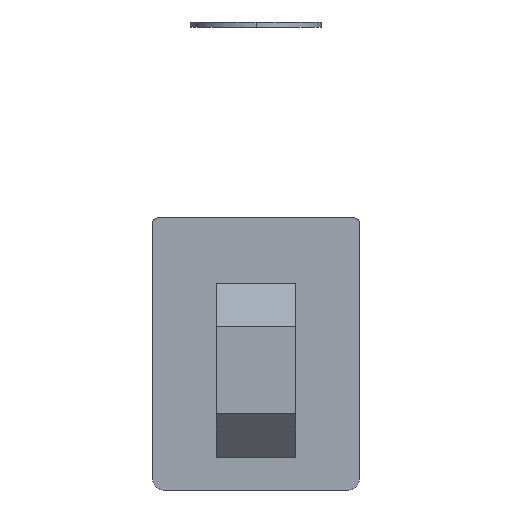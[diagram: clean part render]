
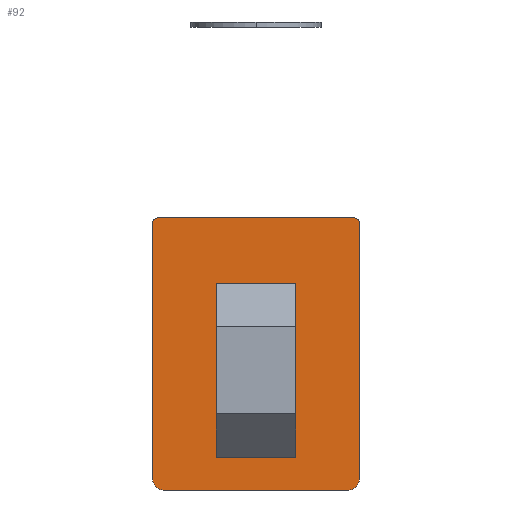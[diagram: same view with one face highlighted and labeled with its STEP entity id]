
A CAD part, front view. The second image highlights one B-rep face of the part: STEP entity #92.
In plain terms, the highlighted planar face has unit normal (0, -1, 0).
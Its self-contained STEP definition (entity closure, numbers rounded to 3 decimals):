
#92=ADVANCED_FACE('NONE',(#249,#250),#251,.T.);
#249=FACE_OUTER_BOUND('',#558,.T.);
#250=FACE_BOUND('',#559,.T.);
#251=PLANE('',#560);
#558=EDGE_LOOP('',(#935,#936,#937,#938,#939,#940,#941,#942));
#559=EDGE_LOOP('',(#943,#944,#945,#946,#947,#948));
#560=AXIS2_PLACEMENT_3D('',#949,#950,#951);
#935=ORIENTED_EDGE('',*,*,#2074,.T.);
#936=ORIENTED_EDGE('',*,*,#2075,.T.);
#937=ORIENTED_EDGE('',*,*,#2076,.F.);
#938=ORIENTED_EDGE('',*,*,#2077,.T.);
#939=ORIENTED_EDGE('',*,*,#2078,.F.);
#940=ORIENTED_EDGE('',*,*,#2079,.T.);
#941=ORIENTED_EDGE('',*,*,#2080,.T.);
#942=ORIENTED_EDGE('',*,*,#2081,.T.);
#943=ORIENTED_EDGE('',*,*,#2065,.F.);
#944=ORIENTED_EDGE('',*,*,#2056,.F.);
#945=ORIENTED_EDGE('',*,*,#2082,.F.);
#946=ORIENTED_EDGE('',*,*,#2060,.F.);
#947=ORIENTED_EDGE('',*,*,#2073,.F.);
#948=ORIENTED_EDGE('',*,*,#2083,.F.);
#949=CARTESIAN_POINT('',(0.0,0.0,-25.0));
#950=DIRECTION('',(0.0,-1.0,0.0));
#951=DIRECTION('',(0.0,0.0,-1.0));
#2056=EDGE_CURVE('NONE',#2478,#2480,#2481,.T.);
#2060=EDGE_CURVE('NONE',#2485,#2487,#2488,.T.);
#2065=EDGE_CURVE('NONE',#2480,#2495,#2496,.T.);
#2073=EDGE_CURVE('NONE',#2506,#2485,#2508,.T.);
#2074=EDGE_CURVE('NONE',#2509,#2510,#2511,.T.);
#2075=EDGE_CURVE('NONE',#2510,#2512,#2513,.T.);
#2076=EDGE_CURVE('NONE',#2514,#2512,#2515,.T.);
#2077=EDGE_CURVE('NONE',#2514,#2516,#2517,.T.);
#2078=EDGE_CURVE('NONE',#2518,#2516,#2519,.T.);
#2079=EDGE_CURVE('NONE',#2518,#2520,#2521,.T.);
#2080=EDGE_CURVE('NONE',#2520,#2522,#2523,.T.);
#2081=EDGE_CURVE('NONE',#2522,#2509,#2524,.T.);
#2082=EDGE_CURVE('NONE',#2487,#2478,#2525,.T.);
#2083=EDGE_CURVE('NONE',#2495,#2506,#2526,.T.);
#2478=VERTEX_POINT('NONE',#3127);
#2480=VERTEX_POINT('NONE',#3130);
#2481=LINE('',#3131,#3132);
#2485=VERTEX_POINT('NONE',#3147);
#2487=VERTEX_POINT('NONE',#3150);
#2488=CIRCLE('',#3151,4.0);
#2495=VERTEX_POINT('NONE',#3184);
#2496=CIRCLE('',#3185,4.0);
#2506=VERTEX_POINT('NONE',#3213);
#2508=LINE('',#3216,#3217);
#2509=VERTEX_POINT('NONE',#3218);
#2510=VERTEX_POINT('NONE',#3219);
#2511=LINE('',#3220,#3221);
#2512=VERTEX_POINT('NONE',#3222);
#2513=CIRCLE('',#3223,0.5);
#2514=VERTEX_POINT('NONE',#3224);
#2515=LINE('',#3225,#3226);
#2516=VERTEX_POINT('NONE',#3227);
#2517=CIRCLE('',#3228,0.5);
#2518=VERTEX_POINT('NONE',#3229);
#2519=LINE('',#3230,#3231);
#2520=VERTEX_POINT('NONE',#3232);
#2521=CIRCLE('',#3233,1.0);
#2522=VERTEX_POINT('NONE',#3234);
#2523=LINE('',#3235,#3236);
#2524=CIRCLE('',#3237,1.0);
#2525=LINE('',#3238,#3239);
#2526=LINE('',#3240,#3241);
#3127=CARTESIAN_POINT('',(12.85,0.0,-10.1));
#3130=CARTESIAN_POINT('',(10.15,0.0,-10.1));
#3131=CARTESIAN_POINT('',(12.85,0.0,-10.1));
#3132=VECTOR('',#4000,1000.0);
#3147=CARTESIAN_POINT('',(8.85,0.0,-17.9));
#3150=CARTESIAN_POINT('',(12.85,0.0,-13.9));
#3151=AXIS2_PLACEMENT_3D('',#4003,#4004,#4005);
#3184=CARTESIAN_POINT('',(6.15,0.0,-14.1));
#3185=AXIS2_PLACEMENT_3D('',#4007,#4008,#4009);
#3213=CARTESIAN_POINT('',(6.15,0.0,-17.9));
#3216=CARTESIAN_POINT('',(8.85,0.0,-17.9));
#3217=VECTOR('',#4017,1000.0);
#3218=CARTESIAN_POINT('',(19.0,0.0,-24.0));
#3219=CARTESIAN_POINT('',(19.0,0.0,-0.5));
#3220=CARTESIAN_POINT('',(19.0,0.0,-25.0));
#3221=VECTOR('',#4018,1000.0);
#3222=CARTESIAN_POINT('',(18.5,0.0,0.0));
#3223=AXIS2_PLACEMENT_3D('',#4019,#4020,#4021);
#3224=CARTESIAN_POINT('',(0.5,0.0,0.0));
#3225=CARTESIAN_POINT('',(0.0,0.0,0.0));
#3226=VECTOR('',#4022,1000.0);
#3227=CARTESIAN_POINT('',(0.0,0.0,-0.5));
#3228=AXIS2_PLACEMENT_3D('',#4023,#4024,#4025);
#3229=CARTESIAN_POINT('',(0.0,0.0,-24.0));
#3230=CARTESIAN_POINT('',(0.0,0.0,-25.0));
#3231=VECTOR('',#4026,1000.0);
#3232=CARTESIAN_POINT('',(1.0,0.0,-25.0));
#3233=AXIS2_PLACEMENT_3D('',#4027,#4028,#4029);
#3234=CARTESIAN_POINT('',(18.0,0.0,-25.0));
#3235=CARTESIAN_POINT('',(0.0,0.0,-25.0));
#3236=VECTOR('',#4030,1000.0);
#3237=AXIS2_PLACEMENT_3D('',#4031,#4032,#4033);
#3238=CARTESIAN_POINT('',(12.85,0.0,-13.9));
#3239=VECTOR('',#4034,1000.0);
#3240=CARTESIAN_POINT('',(6.15,0.0,-17.9));
#3241=VECTOR('',#4035,1000.0);
#4000=DIRECTION('',(-1.0,0.0,0.0));
#4003=CARTESIAN_POINT('',(8.85,0.0,-13.9));
#4004=DIRECTION('',(0.0,-1.0,0.0));
#4005=DIRECTION('',(0.0,0.0,1.0));
#4007=CARTESIAN_POINT('',(10.15,0.0,-14.1));
#4008=DIRECTION('',(0.0,-1.0,0.0));
#4009=DIRECTION('',(0.0,0.0,-1.0));
#4017=DIRECTION('',(1.0,-0.0,-0.0));
#4018=DIRECTION('',(0.0,0.0,1.0));
#4019=CARTESIAN_POINT('',(18.5,0.0,-0.5));
#4020=DIRECTION('',(0.0,-1.0,0.0));
#4021=DIRECTION('',(0.0,0.0,-1.0));
#4022=DIRECTION('',(1.0,0.0,0.0));
#4023=CARTESIAN_POINT('',(0.5,0.0,-0.5));
#4024=DIRECTION('',(0.0,-1.0,0.0));
#4025=DIRECTION('',(0.0,0.0,-1.0));
#4026=DIRECTION('',(0.0,0.0,1.0));
#4027=CARTESIAN_POINT('',(1.0,0.0,-24.0));
#4028=DIRECTION('',(0.0,-1.0,0.0));
#4029=DIRECTION('',(0.0,0.0,-1.0));
#4030=DIRECTION('',(1.0,0.0,0.0));
#4031=CARTESIAN_POINT('',(18.0,0.0,-24.0));
#4032=DIRECTION('',(0.0,-1.0,0.0));
#4033=DIRECTION('',(0.0,0.0,-1.0));
#4034=DIRECTION('',(0.0,0.0,1.0));
#4035=DIRECTION('',(-0.0,-0.0,-1.0));
